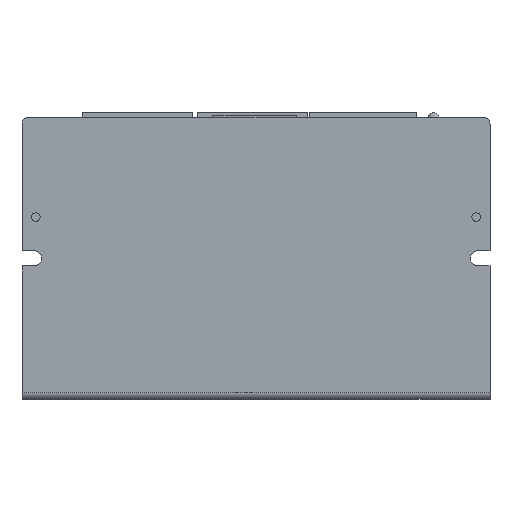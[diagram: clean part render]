
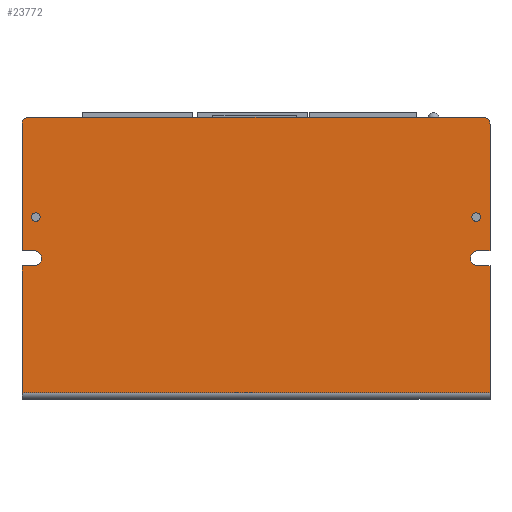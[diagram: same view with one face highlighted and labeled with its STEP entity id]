
A CAD part, front view. The second image highlights one B-rep face of the part: STEP entity #23772.
In plain terms, the highlighted planar face has unit normal (0, -1, 0).
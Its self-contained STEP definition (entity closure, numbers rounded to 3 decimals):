
#32=CARTESIAN_POINT('',(66.,-2.5,77.5));
#33=DIRECTION('',(0.,1.,0.));
#34=DIRECTION('',(0.,0.,1.));
#35=AXIS2_PLACEMENT_3D('',#32,#33,#34);
#37=DIRECTION('',(0.,0.,-1.));
#38=VECTOR('',#37,36.8);
#39=CARTESIAN_POINT('',(68.,-2.5,77.5));
#40=LINE('',#39,#38);
#41=CARTESIAN_POINT('',(64.5,-2.5,38.5));
#42=DIRECTION('',(0.,-1.,0.));
#43=DIRECTION('',(0.,0.,1.));
#44=AXIS2_PLACEMENT_3D('',#41,#42,#43);
#46=DIRECTION('',(1.,0.,0.));
#47=VECTOR('',#46,3.5);
#48=CARTESIAN_POINT('',(64.5,-2.5,36.3));
#49=LINE('',#48,#47);
#50=DIRECTION('',(0.,0.,-1.));
#51=VECTOR('',#50,36.8);
#52=CARTESIAN_POINT('',(68.,-2.5,36.3));
#53=LINE('',#52,#51);
#54=CARTESIAN_POINT('',(-64.5,-2.5,38.5));
#55=DIRECTION('',(0.,-1.,0.));
#56=DIRECTION('',(0.,0.,-1.));
#57=AXIS2_PLACEMENT_3D('',#54,#55,#56);
#59=CARTESIAN_POINT('',(-64.5,-2.5,38.5));
#60=DIRECTION('',(0.,-1.,0.));
#61=DIRECTION('',(1.,0.,0.));
#62=AXIS2_PLACEMENT_3D('',#59,#60,#61);
#64=CARTESIAN_POINT('',(-66.,-2.5,77.5));
#65=DIRECTION('',(0.,1.,0.));
#66=DIRECTION('',(-1.,0.,0.));
#67=AXIS2_PLACEMENT_3D('',#64,#65,#66);
#69=CARTESIAN_POINT('',(-64.,-2.5,50.5));
#70=DIRECTION('',(0.,-1.,0.));
#71=DIRECTION('',(1.,0.,0.));
#72=AXIS2_PLACEMENT_3D('',#69,#70,#71);
#74=CARTESIAN_POINT('',(-64.,-2.5,50.5));
#75=DIRECTION('',(0.,-1.,0.));
#76=DIRECTION('',(-1.,0.,0.));
#77=AXIS2_PLACEMENT_3D('',#74,#75,#76);
#79=CARTESIAN_POINT('',(64.,-2.5,50.5));
#80=DIRECTION('',(0.,-1.,0.));
#81=DIRECTION('',(1.,0.,0.));
#82=AXIS2_PLACEMENT_3D('',#79,#80,#81);
#84=CARTESIAN_POINT('',(64.,-2.5,50.5));
#85=DIRECTION('',(0.,-1.,0.));
#86=DIRECTION('',(-1.,0.,0.));
#87=AXIS2_PLACEMENT_3D('',#84,#85,#86);
#109=DIRECTION('',(-1.,0.,0.));
#110=VECTOR('',#109,132.);
#111=CARTESIAN_POINT('',(66.,-2.5,79.5));
#112=LINE('',#111,#110);
#16395=DIRECTION('',(0.,0.,-1.));
#16396=VECTOR('',#16395,36.8);
#16397=CARTESIAN_POINT('',(-68.,-2.5,77.5));
#16398=LINE('',#16397,#16396);
#16407=DIRECTION('',(1.,0.,0.));
#16408=VECTOR('',#16407,3.5);
#16409=CARTESIAN_POINT('',(-68.,-2.5,40.7));
#16410=LINE('',#16409,#16408);
#16431=DIRECTION('',(-1.,0.,0.));
#16432=VECTOR('',#16431,3.5);
#16433=CARTESIAN_POINT('',(-64.5,-2.5,36.3));
#16434=LINE('',#16433,#16432);
#16435=DIRECTION('',(0.,0.,-1.));
#16436=VECTOR('',#16435,36.8);
#16437=CARTESIAN_POINT('',(-68.,-2.5,36.3));
#16438=LINE('',#16437,#16436);
#16448=DIRECTION('',(1.,0.,0.));
#16449=VECTOR('',#16448,136.);
#16450=CARTESIAN_POINT('',(-68.,-2.5,-0.5));
#16451=LINE('',#16450,#16449);
#17144=DIRECTION('',(1.,0.,0.));
#17145=VECTOR('',#17144,3.5);
#17146=CARTESIAN_POINT('',(64.5,-2.5,40.7));
#17147=LINE('',#17146,#17145);
#18059=CARTESIAN_POINT('',(68.,-2.5,36.3));
#18061=VERTEX_POINT('',#18059);
#18070=CARTESIAN_POINT('',(68.,-2.5,-0.5));
#18071=VERTEX_POINT('',#18070);
#18081=CARTESIAN_POINT('',(68.,-2.5,77.5));
#18083=VERTEX_POINT('',#18081);
#18084=CARTESIAN_POINT('',(68.,-2.5,40.7));
#18086=VERTEX_POINT('',#18084);
#18088=CARTESIAN_POINT('',(66.,-2.5,79.5));
#18089=VERTEX_POINT('',#18088);
#18090=CARTESIAN_POINT('',(64.5,-2.5,40.7));
#18091=VERTEX_POINT('',#18090);
#18092=CARTESIAN_POINT('',(64.5,-2.5,36.3));
#18093=VERTEX_POINT('',#18092);
#18094=CARTESIAN_POINT('',(-68.,-2.5,-0.5));
#18095=VERTEX_POINT('',#18094);
#18096=CARTESIAN_POINT('',(-64.5,-2.5,36.3));
#18097=CARTESIAN_POINT('',(-68.,-2.5,36.3));
#18098=VERTEX_POINT('',#18096);
#18099=VERTEX_POINT('',#18097);
#18100=CARTESIAN_POINT('',(-62.3,-2.5,38.5));
#18101=VERTEX_POINT('',#18100);
#18102=CARTESIAN_POINT('',(-64.5,-2.5,40.7));
#18103=VERTEX_POINT('',#18102);
#18104=CARTESIAN_POINT('',(-68.,-2.5,40.7));
#18105=VERTEX_POINT('',#18104);
#18106=CARTESIAN_POINT('',(-68.,-2.5,77.5));
#18107=CARTESIAN_POINT('',(-66.,-2.5,79.5));
#18108=VERTEX_POINT('',#18106);
#18109=VERTEX_POINT('',#18107);
#18110=CARTESIAN_POINT('',(-62.75,-2.5,50.5));
#18111=CARTESIAN_POINT('',(-65.25,-2.5,50.5));
#18112=VERTEX_POINT('',#18110);
#18113=VERTEX_POINT('',#18111);
#18114=CARTESIAN_POINT('',(65.25,-2.5,50.5));
#18115=CARTESIAN_POINT('',(62.75,-2.5,50.5));
#18116=VERTEX_POINT('',#18114);
#18117=VERTEX_POINT('',#18115);
#23725=CARTESIAN_POINT('',(0.,-2.5,39.5));
#23726=DIRECTION('',(0.,1.,0.));
#23727=DIRECTION('',(0.,0.,1.));
#23728=AXIS2_PLACEMENT_3D('',#23725,#23726,#23727);
#23729=PLANE('',#23728);
#23731=ORIENTED_EDGE('',*,*,#23730,.T.);
#23733=ORIENTED_EDGE('',*,*,#23732,.T.);
#23735=ORIENTED_EDGE('',*,*,#23734,.F.);
#23737=ORIENTED_EDGE('',*,*,#23736,.T.);
#23738=ORIENTED_EDGE('',*,*,#23716,.T.);
#23739=ORIENTED_EDGE('',*,*,#23705,.T.);
#23741=ORIENTED_EDGE('',*,*,#23740,.F.);
#23743=ORIENTED_EDGE('',*,*,#23742,.F.);
#23745=ORIENTED_EDGE('',*,*,#23744,.F.);
#23747=ORIENTED_EDGE('',*,*,#23746,.T.);
#23749=ORIENTED_EDGE('',*,*,#23748,.T.);
#23751=ORIENTED_EDGE('',*,*,#23750,.F.);
#23753=ORIENTED_EDGE('',*,*,#23752,.F.);
#23755=ORIENTED_EDGE('',*,*,#23754,.T.);
#23757=ORIENTED_EDGE('',*,*,#23756,.F.);
#23758=EDGE_LOOP('',(#23731,#23733,#23735,#23737,#23738,#23739,#23741,#23743,
#23745,#23747,#23749,#23751,#23753,#23755,#23757));
#23759=FACE_OUTER_BOUND('',#23758,.F.);
#23761=ORIENTED_EDGE('',*,*,#23760,.T.);
#23763=ORIENTED_EDGE('',*,*,#23762,.T.);
#23764=EDGE_LOOP('',(#23761,#23763));
#23765=FACE_BOUND('',#23764,.F.);
#23767=ORIENTED_EDGE('',*,*,#23766,.T.);
#23769=ORIENTED_EDGE('',*,*,#23768,.T.);
#23770=EDGE_LOOP('',(#23767,#23769));
#23771=FACE_BOUND('',#23770,.F.);
#23772=ADVANCED_FACE('',(#23759,#23765,#23771),#23729,.F.);
#36=CIRCLE('',#35,2.);
#45=CIRCLE('',#44,2.2);
#58=CIRCLE('',#57,2.2);
#63=CIRCLE('',#62,2.2);
#68=CIRCLE('',#67,2.);
#73=CIRCLE('',#72,1.25);
#78=CIRCLE('',#77,1.25);
#83=CIRCLE('',#82,1.25);
#88=CIRCLE('',#87,1.25);
#23705=EDGE_CURVE('',#18061,#18071,#53,.T.);
#23716=EDGE_CURVE('',#18093,#18061,#49,.T.);
#23730=EDGE_CURVE('',#18089,#18083,#36,.T.);
#23732=EDGE_CURVE('',#18083,#18086,#40,.T.);
#23734=EDGE_CURVE('',#18091,#18086,#17147,.T.);
#23736=EDGE_CURVE('',#18091,#18093,#45,.T.);
#23740=EDGE_CURVE('',#18095,#18071,#16451,.T.);
#23742=EDGE_CURVE('',#18099,#18095,#16438,.T.);
#23744=EDGE_CURVE('',#18098,#18099,#16434,.T.);
#23746=EDGE_CURVE('',#18098,#18101,#58,.T.);
#23748=EDGE_CURVE('',#18101,#18103,#63,.T.);
#23750=EDGE_CURVE('',#18105,#18103,#16410,.T.);
#23752=EDGE_CURVE('',#18108,#18105,#16398,.T.);
#23754=EDGE_CURVE('',#18108,#18109,#68,.T.);
#23756=EDGE_CURVE('',#18089,#18109,#112,.T.);
#23760=EDGE_CURVE('',#18112,#18113,#73,.T.);
#23762=EDGE_CURVE('',#18113,#18112,#78,.T.);
#23766=EDGE_CURVE('',#18116,#18117,#83,.T.);
#23768=EDGE_CURVE('',#18117,#18116,#88,.T.);
